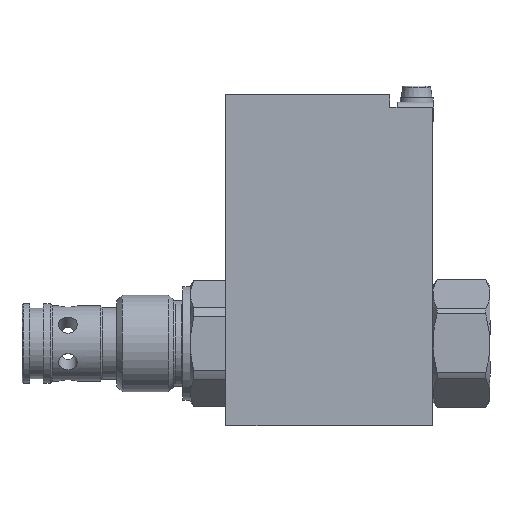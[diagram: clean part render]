
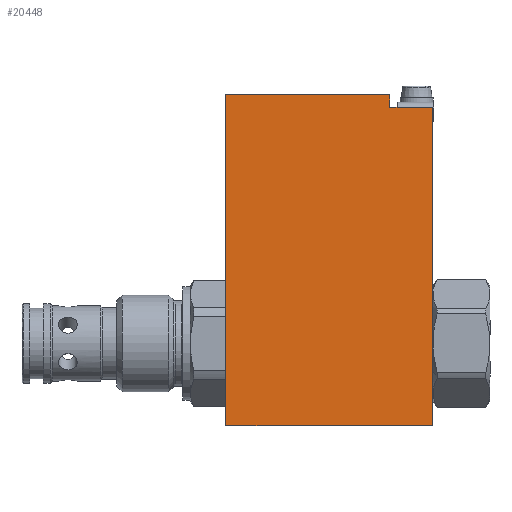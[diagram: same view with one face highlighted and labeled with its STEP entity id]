
A CAD part, top view. The second image highlights one B-rep face of the part: STEP entity #20448.
In plain terms, the highlighted planar face has unit normal (0, 0, 1) as drawn and (1, 0, 0) by its records, which use the part's own axes.
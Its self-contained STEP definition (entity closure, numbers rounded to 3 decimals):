
#12866=DIRECTION('',(0.,0.,1.));
#12867=VECTOR('',#12866,12.);
#12868=CARTESIAN_POINT('',(23.,42.75,0.));
#12869=LINE('',#12868,#12867);
#12873=DIRECTION('',(0.,-1.,0.));
#12874=VECTOR('',#12873,92.5);
#12875=CARTESIAN_POINT('',(23.,46.25,57.85));
#12876=LINE('',#12875,#12874);
#12880=DIRECTION('',(0.,0.,1.));
#12881=VECTOR('',#12880,45.85);
#12882=CARTESIAN_POINT('',(23.,46.25,12.));
#12883=LINE('',#12882,#12881);
#12976=DIRECTION('',(0.,-1.,0.));
#12977=VECTOR('',#12976,3.5);
#12978=CARTESIAN_POINT('',(23.,46.25,12.));
#12979=LINE('',#12978,#12977);
#13062=DIRECTION('',(0.,0.,1.));
#13063=VECTOR('',#13062,57.85);
#13064=CARTESIAN_POINT('',(23.,-46.25,0.));
#13065=LINE('',#13064,#13063);
#13104=DIRECTION('',(0.,-1.,0.));
#13105=VECTOR('',#13104,89.);
#13106=CARTESIAN_POINT('',(23.,42.75,0.));
#13107=LINE('',#13106,#13105);
#18888=CARTESIAN_POINT('',(23.,46.25,12.));
#18890=VERTEX_POINT('',#18888);
#19065=CARTESIAN_POINT('',(23.,42.75,12.));
#19066=VERTEX_POINT('',#19065);
#19299=CARTESIAN_POINT('',(23.,-46.25,57.85));
#19300=VERTEX_POINT('',#19299);
#19419=CARTESIAN_POINT('',(23.,42.75,0.));
#19420=CARTESIAN_POINT('',(23.,-46.25,0.));
#19421=VERTEX_POINT('',#19419);
#19422=VERTEX_POINT('',#19420);
#19531=CARTESIAN_POINT('',(23.,46.25,57.85));
#19532=VERTEX_POINT('',#19531);
#20430=CARTESIAN_POINT('',(23.,46.25,57.85));
#20431=DIRECTION('',(-1.,0.,0.));
#20432=DIRECTION('',(0.,-1.,0.));
#20433=AXIS2_PLACEMENT_3D('',#20430,#20431,#20432);
#20434=PLANE('',#20433);
#20436=ORIENTED_EDGE('',*,*,#20435,.F.);
#20438=ORIENTED_EDGE('',*,*,#20437,.T.);
#20440=ORIENTED_EDGE('',*,*,#20439,.T.);
#20441=ORIENTED_EDGE('',*,*,#20396,.F.);
#20443=ORIENTED_EDGE('',*,*,#20442,.F.);
#20445=ORIENTED_EDGE('',*,*,#20444,.T.);
#20446=EDGE_LOOP('',(#20436,#20438,#20440,#20441,#20443,#20445));
#20447=FACE_OUTER_BOUND('',#20446,.F.);
#20396=EDGE_CURVE('',#19532,#19300,#12876,.T.);
#20435=EDGE_CURVE('',#19421,#19066,#12869,.T.);
#20437=EDGE_CURVE('',#19421,#19422,#13107,.T.);
#20439=EDGE_CURVE('',#19422,#19300,#13065,.T.);
#20442=EDGE_CURVE('',#18890,#19532,#12883,.T.);
#20444=EDGE_CURVE('',#18890,#19066,#12979,.T.);
#20448=ADVANCED_FACE('',(#20447),#20434,.F.);
